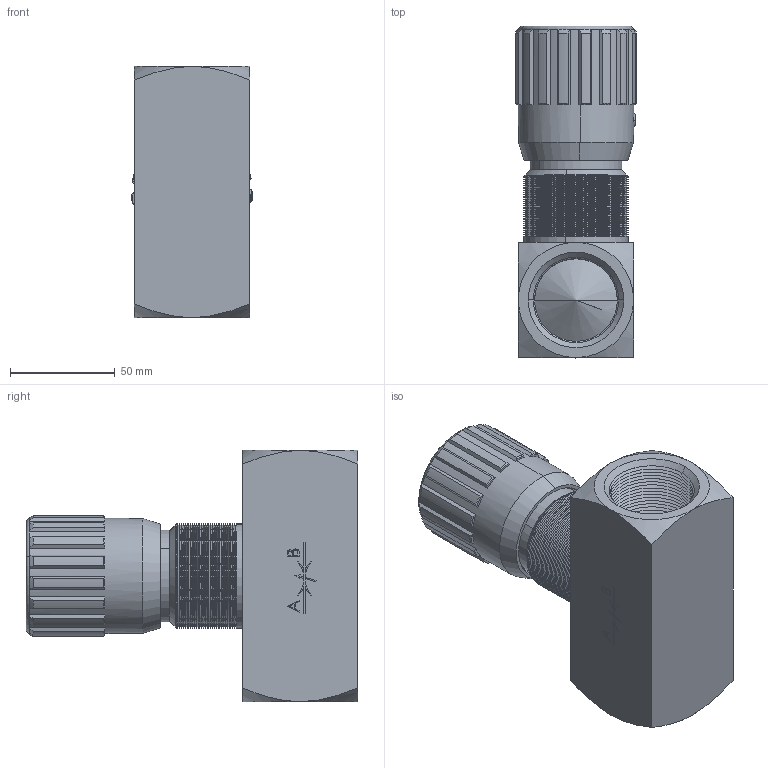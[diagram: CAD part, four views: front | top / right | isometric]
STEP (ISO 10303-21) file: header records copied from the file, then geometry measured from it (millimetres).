
FILE_DESCRIPTION (( 'STEP AP214' ), '1' );
FILE_NAME ('2257-2-114.STEP', '2015-04-11T12:43:06', ( '' ), ( '' ), 'SwSTEP 2.0', 'SolidWorks 2014', '' );
FILE_SCHEMA (( 'AUTOMOTIVE_DESIGN' ));
Length unit declared in the file: millimetre
Products named in the file (1): 2257-2-114
Bounding box: 57.98 x 158.3 x 120 mm (x, y, z)
Surface area: 73353.2 mm2 (no closed solid volume)
Topology: 0 solids, 38 shells, 634 faces, 2207 edges, 1569 vertices
Faces by surface type: cone 293, plane 261, cylinder 47, bspline 31, torus 2
Entity records: 34464 total; most frequent: CARTESIAN_POINT 9114, DIRECTION 3609, ORIENTED_EDGE 3519, EDGE_CURVE 2205, VERTEX_POINT 1569, LINE 1437, VECTOR 1437, AXIS2_PLACEMENT_3D 1086
